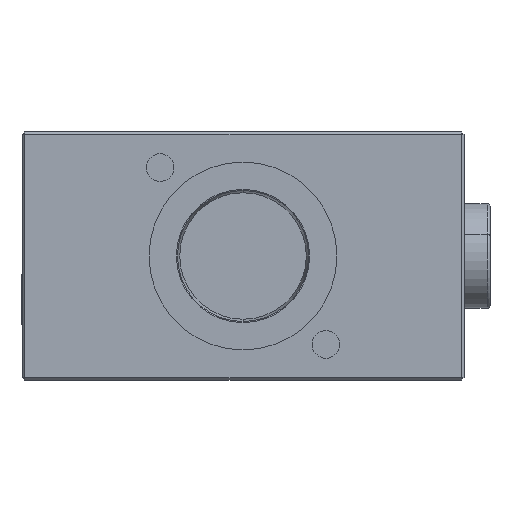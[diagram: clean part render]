
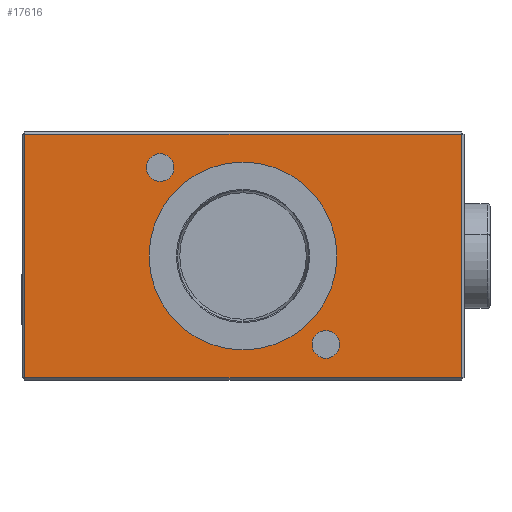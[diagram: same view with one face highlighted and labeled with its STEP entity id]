
A CAD part, left-side view. The second image highlights one B-rep face of the part: STEP entity #17616.
In plain terms, the highlighted planar face has unit normal (-1, 0, 0).
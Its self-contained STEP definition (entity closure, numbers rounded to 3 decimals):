
#175 = AXIS2_PLACEMENT_3D ( 'NONE', #17436, #8702, #18868 ) ;
#462 = CARTESIAN_POINT ( 'NONE',  ( 0., 0., -17. ) ) ;
#560 = VECTOR ( 'NONE', #1708, 1000. ) ;
#604 = DIRECTION ( 'NONE',  ( 0., 0., 1. ) ) ;
#1016 = LINE ( 'NONE', #9004, #560 ) ;
#1252 = AXIS2_PLACEMENT_3D ( 'NONE', #18087, #9379, #604 ) ;
#1295 = DIRECTION ( 'NONE',  ( 0., 0., 1. ) ) ;
#1441 = CARTESIAN_POINT ( 'NONE',  ( 0., -15., -16. ) ) ;
#1708 = DIRECTION ( 'NONE',  ( 0., 0., -1. ) ) ;
#1777 = FACE_BOUND ( 'NONE', #13418, .T. ) ;
#1796 = VERTEX_POINT ( 'NONE', #16271 ) ;
#2651 = LINE ( 'NONE', #18763, #17735 ) ;
#2910 = DIRECTION ( 'NONE',  ( 0., 0., 1. ) ) ;
#3388 = CIRCLE ( 'NONE', #17772, 2.5 ) ;
#3607 = FACE_OUTER_BOUND ( 'NONE', #10376, .T. ) ;
#3630 = CARTESIAN_POINT ( 'NONE',  ( 0., 39.5, 22. ) ) ;
#4006 = AXIS2_PLACEMENT_3D ( 'NONE', #1441, #11640, #2910 ) ;
#5023 = ORIENTED_EDGE ( 'NONE', *, *, #10130, .F. ) ;
#5087 = CARTESIAN_POINT ( 'NONE',  ( 0., -39.5, 22. ) ) ;
#5655 = FACE_BOUND ( 'NONE', #9164, .T. ) ;
#5693 = DIRECTION ( 'NONE',  ( -1., 0., 0. ) ) ;
#5907 = VERTEX_POINT ( 'NONE', #17719 ) ;
#6054 = ORIENTED_EDGE ( 'NONE', *, *, #9201, .F. ) ;
#6408 = VERTEX_POINT ( 'NONE', #17915 ) ;
#6500 = CARTESIAN_POINT ( 'NONE',  ( 0., 40., -22.5 ) ) ;
#6597 = AXIS2_PLACEMENT_3D ( 'NONE', #15596, #6896, #17060 ) ;
#6687 = VECTOR ( 'NONE', #15261, 1000. ) ;
#6822 = ORIENTED_EDGE ( 'NONE', *, *, #16306, .T. ) ;
#6896 = DIRECTION ( 'NONE',  ( -1., 0., 0. ) ) ;
#7067 = ORIENTED_EDGE ( 'NONE', *, *, #14747, .F. ) ;
#7328 = CIRCLE ( 'NONE', #6597, 2.5 ) ;
#7379 = CARTESIAN_POINT ( 'NONE',  ( 0., 15., 16. ) ) ;
#7727 = VERTEX_POINT ( 'NONE', #9750 ) ;
#7938 = DIRECTION ( 'NONE',  ( 0., 0., 1. ) ) ;
#8229 = VERTEX_POINT ( 'NONE', #18307 ) ;
#8294 = CIRCLE ( 'NONE', #1252, 17. ) ;
#8401 = ORIENTED_EDGE ( 'NONE', *, *, #16169, .T. ) ;
#8702 = DIRECTION ( 'NONE',  ( -1., 0., 0. ) ) ;
#8827 = DIRECTION ( 'NONE',  ( 0., 0., 1. ) ) ;
#8859 = VERTEX_POINT ( 'NONE', #5087 ) ;
#8888 = ORIENTED_EDGE ( 'NONE', *, *, #16269, .F. ) ;
#8965 = VECTOR ( 'NONE', #10890, 1000. ) ;
#8970 = CIRCLE ( 'NONE', #13883, 17. ) ;
#9004 = CARTESIAN_POINT ( 'NONE',  ( 0., 39.5, -22.5 ) ) ;
#9164 = EDGE_LOOP ( 'NONE', ( #7067, #8888 ) ) ;
#9201 = EDGE_CURVE ( 'NONE', #6408, #17557, #8970, .T. ) ;
#9379 = DIRECTION ( 'NONE',  ( -1., 0., 0. ) ) ;
#9402 = LINE ( 'NONE', #12367, #8965 ) ;
#9681 = EDGE_CURVE ( 'NONE', #1796, #8229, #9834, .T. ) ;
#9750 = CARTESIAN_POINT ( 'NONE',  ( 0., 15., 13.5 ) ) ;
#9834 = CIRCLE ( 'NONE', #4006, 2.5 ) ;
#9918 = ORIENTED_EDGE ( 'NONE', *, *, #11701, .T. ) ;
#9992 = CARTESIAN_POINT ( 'NONE',  ( 0., 15., 18.5 ) ) ;
#10130 = EDGE_CURVE ( 'NONE', #8229, #1796, #7328, .T. ) ;
#10376 = EDGE_LOOP ( 'NONE', ( #8401, #9918, #6822, #13353 ) ) ;
#10460 = EDGE_LOOP ( 'NONE', ( #16841, #5023 ) ) ;
#10705 = AXIS2_PLACEMENT_3D ( 'NONE', #6500, #16666, #7938 ) ;
#10890 = DIRECTION ( 'NONE',  ( 0., 1., 0. ) ) ;
#11640 = DIRECTION ( 'NONE',  ( -1., 0., 0. ) ) ;
#11701 = EDGE_CURVE ( 'NONE', #5907, #8859, #2651, .T. ) ;
#12180 = ORIENTED_EDGE ( 'NONE', *, *, #15508, .F. ) ;
#12367 = CARTESIAN_POINT ( 'NONE',  ( 0., 40., 22. ) ) ;
#12482 = VERTEX_POINT ( 'NONE', #3630 ) ;
#13353 = ORIENTED_EDGE ( 'NONE', *, *, #18562, .T. ) ;
#13418 = EDGE_LOOP ( 'NONE', ( #6054, #12180 ) ) ;
#13651 = VERTEX_POINT ( 'NONE', #16772 ) ;
#13883 = AXIS2_PLACEMENT_3D ( 'NONE', #14402, #5693, #15888 ) ;
#14402 = CARTESIAN_POINT ( 'NONE',  ( 0., 0., 0. ) ) ;
#14747 = EDGE_CURVE ( 'NONE', #18851, #7727, #3388, .T. ) ;
#15261 = DIRECTION ( 'NONE',  ( 0., -1., 0. ) ) ;
#15508 = EDGE_CURVE ( 'NONE', #17557, #6408, #8294, .T. ) ;
#15596 = CARTESIAN_POINT ( 'NONE',  ( 0., -15., -16. ) ) ;
#15888 = DIRECTION ( 'NONE',  ( 0., 0., 1. ) ) ;
#16169 = EDGE_CURVE ( 'NONE', #13651, #5907, #17859, .T. ) ;
#16269 = EDGE_CURVE ( 'NONE', #7727, #18851, #18491, .T. ) ;
#16271 = CARTESIAN_POINT ( 'NONE',  ( 0., -15., -13.5 ) ) ;
#16306 = EDGE_CURVE ( 'NONE', #8859, #12482, #9402, .T. ) ;
#16594 = PLANE ( 'NONE',  #10705 ) ;
#16666 = DIRECTION ( 'NONE',  ( -1., 0., 0. ) ) ;
#16772 = CARTESIAN_POINT ( 'NONE',  ( 0., 39.5, -22. ) ) ;
#16780 = CARTESIAN_POINT ( 'NONE',  ( 0., -40., -22. ) ) ;
#16841 = ORIENTED_EDGE ( 'NONE', *, *, #9681, .F. ) ;
#17060 = DIRECTION ( 'NONE',  ( 0., 0., 1. ) ) ;
#17284 = FACE_BOUND ( 'NONE', #10460, .T. ) ;
#17436 = CARTESIAN_POINT ( 'NONE',  ( 0., 15., 16. ) ) ;
#17557 = VERTEX_POINT ( 'NONE', #462 ) ;
#17562 = DIRECTION ( 'NONE',  ( -1., 0., 0. ) ) ;
#17616 = ADVANCED_FACE ( 'NONE', ( #3607, #17284, #5655, #1777 ), #16594, .T. ) ;
#17719 = CARTESIAN_POINT ( 'NONE',  ( 0., -39.5, -22. ) ) ;
#17735 = VECTOR ( 'NONE', #1295, 1000. ) ;
#17772 = AXIS2_PLACEMENT_3D ( 'NONE', #7379, #17562, #8827 ) ;
#17859 = LINE ( 'NONE', #16780, #6687 ) ;
#17915 = CARTESIAN_POINT ( 'NONE',  ( 0., 0., 17. ) ) ;
#18087 = CARTESIAN_POINT ( 'NONE',  ( 0., 0., 0. ) ) ;
#18307 = CARTESIAN_POINT ( 'NONE',  ( 0., -15., -18.5 ) ) ;
#18491 = CIRCLE ( 'NONE', #175, 2.5 ) ;
#18562 = EDGE_CURVE ( 'NONE', #12482, #13651, #1016, .T. ) ;
#18763 = CARTESIAN_POINT ( 'NONE',  ( 0., -39.5, 22.5 ) ) ;
#18851 = VERTEX_POINT ( 'NONE', #9992 ) ;
#18868 = DIRECTION ( 'NONE',  ( 0., 0., 1. ) ) ;
